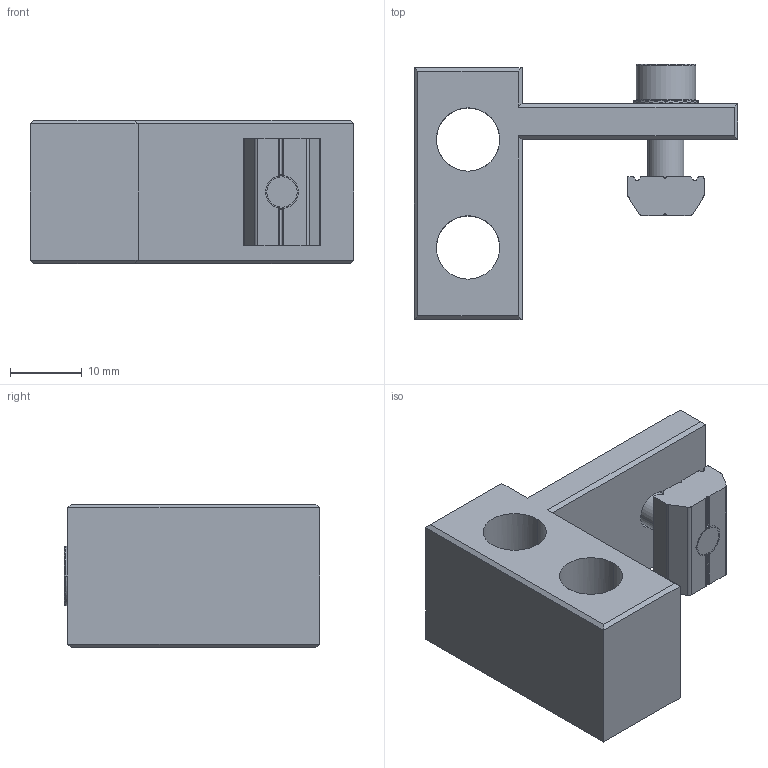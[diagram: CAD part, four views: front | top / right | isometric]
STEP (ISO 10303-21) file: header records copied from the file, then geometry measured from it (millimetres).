
FILE_DESCRIPTION (( 'STEP AP214' ), '1' );
FILE_NAME ('SMB2-5G18T.STEP', '2023-01-06T08:45:24', ( 'Windows User' ), ( 'P R C' ), 'SwSTEP 2.0', 'SolidWorks 2018', '' );
FILE_SCHEMA (( 'AUTOMOTIVE_DESIGN' ));
Length unit declared in the file: millimetre
Products named in the file (5): SMB2-5G18; PTC-M5L16; PTN-M5; SMB2-5G18T; PTS-M5
Assembly tree (4 placements, depth 2):
  SMB2-5G18T
    SMB2-5G18
    PTC-M5L16
    PTS-M5
    PTN-M5
Bounding box: 45 x 35.45 x 20 mm (x, y, z)
Volume: 11311.6 mm3; surface area: 6787.9 mm2
Topology: 4 solids, 4 shells, 272 faces, 777 edges, 508 vertices
Faces by surface type: plane 220, cylinder 46, cone 6
Entity records: 9268 total; most frequent: CARTESIAN_POINT 1680, ORIENTED_EDGE 1554, DIRECTION 1533, EDGE_CURVE 777, AXIS2_PLACEMENT_3D 513, VERTEX_POINT 508, LINE 507, VECTOR 507
